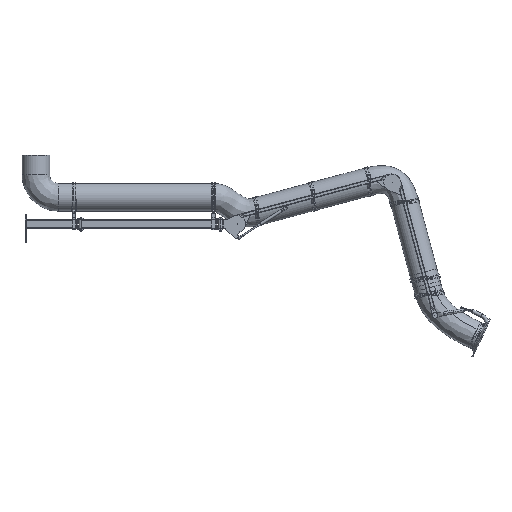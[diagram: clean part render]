
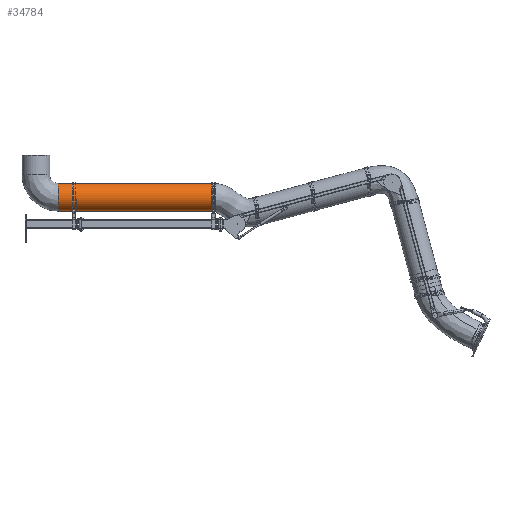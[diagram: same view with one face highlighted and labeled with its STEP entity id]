
A CAD part, top view. The second image highlights one B-rep face of the part: STEP entity #34784.
In plain terms, the highlighted free-form (B-spline) face has degree [3, 3] with [7, 6] control points.
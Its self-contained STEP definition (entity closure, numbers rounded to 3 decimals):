
#32706=CARTESIAN_POINT('',(-172.,192.,-50.));
#32707=DIRECTION('',(-1.,0.,0.));
#32708=DIRECTION('',(0.,-0.98,-0.198));
#32709=AXIS2_PLACEMENT_3D('',#32706,#32707,#32708);
#32714=CARTESIAN_POINT('',(-172.,93.971,-69.758));
#32715=CARTESIAN_POINT('',(-295.556,93.971,
-69.758));
#32716=CARTESIAN_POINT('',(-542.667,93.971,
-69.758));
#32717=CARTESIAN_POINT('',(-913.333,93.971,
-69.758));
#32718=CARTESIAN_POINT('',(-1160.444,93.971,
-69.758));
#32719=CARTESIAN_POINT('',(-1284.,93.971,-69.758));
#32732=CARTESIAN_POINT('',(-172.,290.029,-30.242));
#32733=CARTESIAN_POINT('',(-295.556,290.029,
-30.242));
#32734=CARTESIAN_POINT('',(-542.667,290.029,
-30.242));
#32735=CARTESIAN_POINT('',(-913.333,290.029,
-30.242));
#32736=CARTESIAN_POINT('',(-1160.444,290.029,
-30.242));
#32737=CARTESIAN_POINT('',(-1284.,290.029,-30.242));
#32788=CARTESIAN_POINT('',(-1284.,192.,-50.));
#32789=DIRECTION('',(-1.,0.,0.));
#32790=DIRECTION('',(0.,-0.98,-0.198));
#32791=AXIS2_PLACEMENT_3D('',#32788,#32789,#32790);
#32919=CARTESIAN_POINT('',(-172.,290.029,-30.242));
#32920=CARTESIAN_POINT('',(-172.,93.971,-69.758));
#32921=VERTEX_POINT('',#32919);
#32922=VERTEX_POINT('',#32920);
#32923=CARTESIAN_POINT('',(-1284.,290.029,-30.242));
#32924=CARTESIAN_POINT('',(-1284.,93.971,-69.758));
#32925=VERTEX_POINT('',#32923);
#32926=VERTEX_POINT('',#32924);
#34732=CARTESIAN_POINT('',(-149.76,95.405,-75.875));
#34733=CARTESIAN_POINT('',(-157.173,95.405,
-75.875));
#34734=CARTESIAN_POINT('',(-535.253,95.405,
-75.875));
#34735=CARTESIAN_POINT('',(-920.747,95.405,
-75.875));
#34736=CARTESIAN_POINT('',(-1298.827,95.405,
-75.875));
#34737=CARTESIAN_POINT('',(-1306.24,95.405,-75.875));
#34738=CARTESIAN_POINT('',(-149.76,79.482,-16.431));
#34739=CARTESIAN_POINT('',(-157.173,79.482,
-16.431));
#34740=CARTESIAN_POINT('',(-535.253,79.482,
-16.431));
#34741=CARTESIAN_POINT('',(-920.747,79.482,
-16.431));
#34742=CARTESIAN_POINT('',(-1298.827,79.482,
-16.431));
#34743=CARTESIAN_POINT('',(-1306.24,79.482,-16.431));
#34744=CARTESIAN_POINT('',(-149.76,111.915,35.869));
#34745=CARTESIAN_POINT('',(-157.173,111.915,
35.869));
#34746=CARTESIAN_POINT('',(-535.253,111.915,
35.869));
#34747=CARTESIAN_POINT('',(-920.747,111.915,
35.869));
#34748=CARTESIAN_POINT('',(-1298.827,111.915,
35.869));
#34749=CARTESIAN_POINT('',(-1306.24,111.915,35.869));
#34750=CARTESIAN_POINT('',(-149.76,172.242,48.029));
#34751=CARTESIAN_POINT('',(-157.173,172.242,
48.029));
#34752=CARTESIAN_POINT('',(-535.253,172.242,
48.029));
#34753=CARTESIAN_POINT('',(-920.747,172.242,
48.029));
#34754=CARTESIAN_POINT('',(-1298.827,172.242,
48.029));
#34755=CARTESIAN_POINT('',(-1306.24,172.242,48.029));
#34756=CARTESIAN_POINT('',(-149.76,232.568,60.188));
#34757=CARTESIAN_POINT('',(-157.173,232.568,
60.188));
#34758=CARTESIAN_POINT('',(-535.253,232.568,
60.188));
#34759=CARTESIAN_POINT('',(-920.747,232.568,
60.188));
#34760=CARTESIAN_POINT('',(-1298.827,232.568,
60.188));
#34761=CARTESIAN_POINT('',(-1306.24,232.568,60.188));
#34762=CARTESIAN_POINT('',(-149.76,282.728,24.535));
#34763=CARTESIAN_POINT('',(-157.173,282.728,
24.535));
#34764=CARTESIAN_POINT('',(-535.253,282.728,
24.535));
#34765=CARTESIAN_POINT('',(-920.747,282.728,
24.535));
#34766=CARTESIAN_POINT('',(-1298.827,282.728,
24.535));
#34767=CARTESIAN_POINT('',(-1306.24,282.728,24.535));
#34768=CARTESIAN_POINT('',(-149.76,291.076,-36.436));
#34769=CARTESIAN_POINT('',(-157.173,291.076,
-36.436));
#34770=CARTESIAN_POINT('',(-535.253,291.076,
-36.436));
#34771=CARTESIAN_POINT('',(-920.747,291.076,
-36.436));
#34772=CARTESIAN_POINT('',(-1298.827,291.076,
-36.436));
#34773=CARTESIAN_POINT('',(-1306.24,291.076,-36.436));
#34774=(BOUNDED_SURFACE()B_SPLINE_SURFACE(3,3,((#34732,#34733,#34734,#34735,
#34736,#34737),(#34738,#34739,#34740,#34741,#34742,#34743),(#34744,#34745,
#34746,#34747,#34748,#34749),(#34750,#34751,#34752,#34753,#34754,#34755),
(#34756,#34757,#34758,#34759,#34760,#34761),(#34762,#34763,#34764,#34765,#34766,
#34767),(#34768,#34769,#34770,#34771,#34772,#34773)),.UNSPECIFIED.,.F.,.F.,.F.)B_SPLINE_SURFACE_WITH_KNOTS((4,3,4),(4,1,1,4),(0.,1.,2.),(-0.02,0.,1.,
1.02),.UNSPECIFIED.)GEOMETRIC_REPRESENTATION_ITEM()RATIONAL_B_SPLINE_SURFACE((
(1.187,1.187,1.187,1.187,
1.187,1.187),(0.938,0.938,
0.938,0.938,0.938,0.938),(
0.938,0.938,0.938,0.938,
0.938,0.938),(1.187,1.187,
1.187,1.187,1.187,1.187),(
0.938,0.938,0.938,0.938,
0.938,0.938),(0.938,0.938,
0.938,0.938,0.938,0.938),(
1.187,1.187,1.187,1.187,
1.187,1.187)))REPRESENTATION_ITEM('')SURFACE());
#34775=ORIENTED_EDGE('',*,*,#34719,.F.);
#34777=ORIENTED_EDGE('',*,*,#34776,.T.);
#34779=ORIENTED_EDGE('',*,*,#34778,.T.);
#34781=ORIENTED_EDGE('',*,*,#34780,.F.);
#34782=EDGE_LOOP('',(#34775,#34777,#34779,#34781));
#34783=FACE_OUTER_BOUND('',#34782,.F.);
#32710=CIRCLE('',#32709,100.);
#32720=B_SPLINE_CURVE_WITH_KNOTS('',3,(#32714,#32715,#32716,#32717,#32718,
#32719),.UNSPECIFIED.,.F.,.F.,(4,1,1,4),(0.,0.333,
0.667,1.),.UNSPECIFIED.);
#32738=B_SPLINE_CURVE_WITH_KNOTS('',3,(#32732,#32733,#32734,#32735,#32736,
#32737),.UNSPECIFIED.,.F.,.F.,(4,1,1,4),(0.,0.333,
0.667,1.),.UNSPECIFIED.);
#32792=CIRCLE('',#32791,100.);
#34719=EDGE_CURVE('',#32922,#32921,#32710,.T.);
#34776=EDGE_CURVE('',#32922,#32926,#32720,.T.);
#34778=EDGE_CURVE('',#32926,#32925,#32792,.T.);
#34780=EDGE_CURVE('',#32921,#32925,#32738,.T.);
#34784=ADVANCED_FACE('',(#34783),#34774,.T.);
